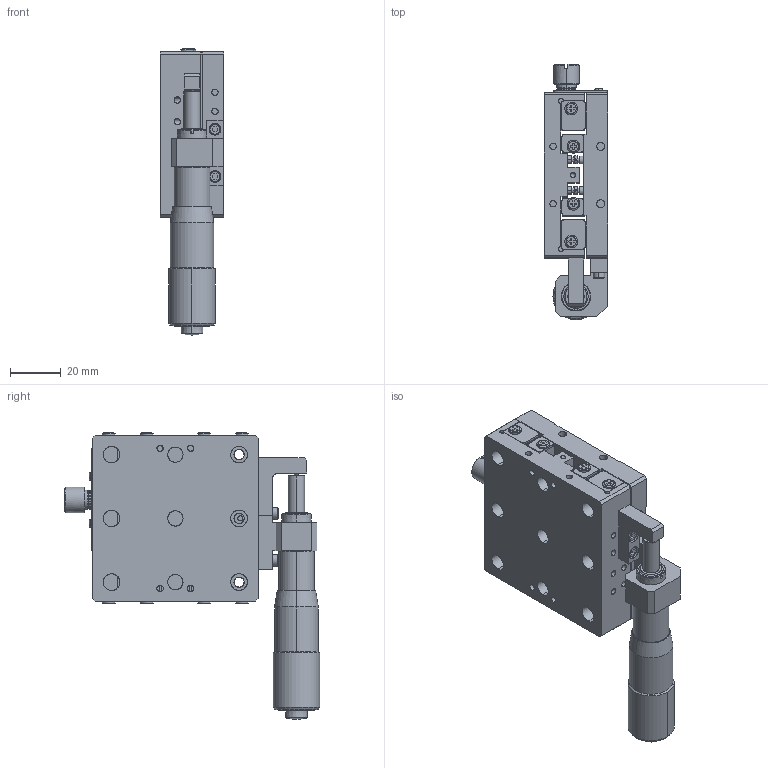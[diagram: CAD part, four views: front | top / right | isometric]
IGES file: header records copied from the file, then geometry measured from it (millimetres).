
Start section: SolidWorks IGES file using analytic representation for surfaces
Global section: file name: E:\0产品2d3d图纸-20180629\0-3种格式文件\产品图纸3d\08PBL\65\PBL-651SR-M6.IGS; native system: SolidWorks 2015; preprocessor: SolidWorks 2015; author: Administrator; date: 181115.152731; units: millimetre
Bounding box: 25 x 100.05 x 112.19 mm (x, y, z)
Surface area: 57891.8 mm2 (no closed solid volume)
Topology: 0 solids, 0 shells, 1074 faces, 17404 edges, 17384 vertices
Faces by surface type: revolution 538, bspline 536
